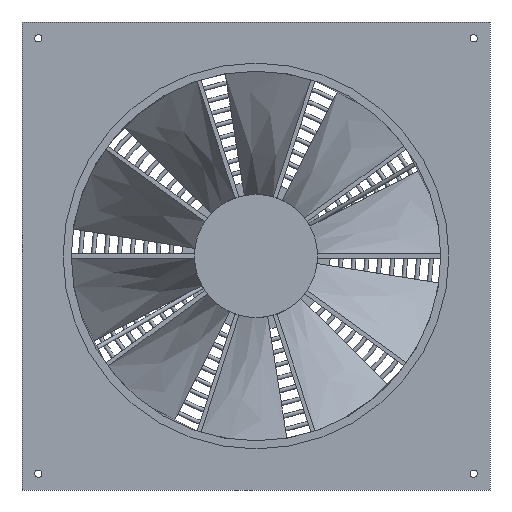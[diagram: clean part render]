
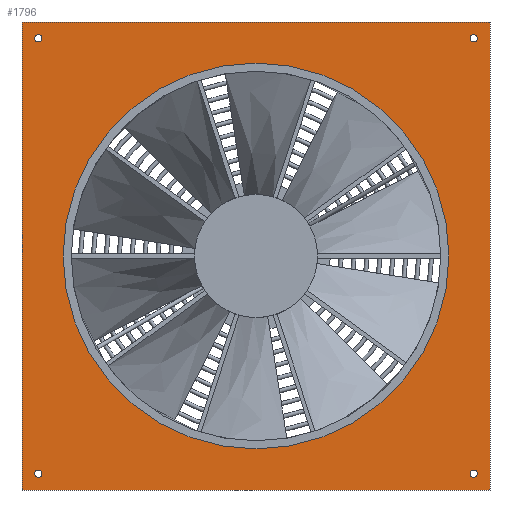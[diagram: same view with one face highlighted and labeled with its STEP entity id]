
A CAD part, front view. The second image highlights one B-rep face of the part: STEP entity #1796.
In plain terms, the highlighted planar face has unit normal (0, -1, 0).
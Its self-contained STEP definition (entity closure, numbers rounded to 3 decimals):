
#130=LINE('',#4096,#218);
#132=LINE('',#4103,#220);
#134=LINE('',#4109,#222);
#135=LINE('',#4111,#223);
#218=VECTOR('',#2268,10.);
#220=VECTOR('',#2276,10.);
#222=VECTOR('',#2282,10.);
#223=VECTOR('',#2285,10.);
#284=PLANE('',#1958);
#334=FACE_BOUND('',#658,.T.);
#335=FACE_BOUND('',#659,.T.);
#336=FACE_BOUND('',#660,.T.);
#337=FACE_BOUND('',#661,.T.);
#338=FACE_BOUND('',#662,.T.);
#408=CIRCLE('',#1947,4.5);
#409=CIRCLE('',#1949,4.5);
#410=CIRCLE('',#1951,4.5);
#411=CIRCLE('',#1953,4.5);
#413=CIRCLE('',#1956,237.);
#515=FACE_OUTER_BOUND('',#657,.T.);
#657=EDGE_LOOP('',(#1651,#1652,#1653,#1654));
#658=EDGE_LOOP('',(#1655));
#659=EDGE_LOOP('',(#1656));
#660=EDGE_LOOP('',(#1657));
#661=EDGE_LOOP('',(#1658));
#662=EDGE_LOOP('',(#1659));
#877=VERTEX_POINT('',#4093);
#878=VERTEX_POINT('',#4095);
#880=VERTEX_POINT('',#4101);
#882=VERTEX_POINT('',#4107);
#893=VERTEX_POINT('',#4235);
#894=VERTEX_POINT('',#4238);
#895=VERTEX_POINT('',#4241);
#896=VERTEX_POINT('',#4244);
#898=VERTEX_POINT('',#4249);
#1105=EDGE_CURVE('',#878,#877,#130,.T.);
#1109=EDGE_CURVE('',#877,#880,#132,.T.);
#1112=EDGE_CURVE('',#880,#882,#134,.T.);
#1113=EDGE_CURVE('',#882,#878,#135,.T.);
#1140=EDGE_CURVE('',#893,#893,#408,.T.);
#1141=EDGE_CURVE('',#894,#894,#409,.T.);
#1142=EDGE_CURVE('',#895,#895,#410,.T.);
#1143=EDGE_CURVE('',#896,#896,#411,.T.);
#1145=EDGE_CURVE('',#898,#898,#413,.T.);
#1651=ORIENTED_EDGE('',*,*,#1105,.T.);
#1652=ORIENTED_EDGE('',*,*,#1109,.T.);
#1653=ORIENTED_EDGE('',*,*,#1112,.T.);
#1654=ORIENTED_EDGE('',*,*,#1113,.T.);
#1655=ORIENTED_EDGE('',*,*,#1140,.T.);
#1656=ORIENTED_EDGE('',*,*,#1141,.T.);
#1657=ORIENTED_EDGE('',*,*,#1142,.T.);
#1658=ORIENTED_EDGE('',*,*,#1143,.T.);
#1659=ORIENTED_EDGE('',*,*,#1145,.T.);
#1796=ADVANCED_FACE('',(#515,#334,#335,#336,#337,#338),#284,.F.);
#1947=AXIS2_PLACEMENT_3D('',#4236,#2333,#2334);
#1949=AXIS2_PLACEMENT_3D('',#4239,#2337,#2338);
#1951=AXIS2_PLACEMENT_3D('',#4242,#2341,#2342);
#1953=AXIS2_PLACEMENT_3D('',#4245,#2345,#2346);
#1956=AXIS2_PLACEMENT_3D('',#4250,#2351,#2352);
#1958=AXIS2_PLACEMENT_3D('',#4252,#2355,#2356);
#2268=DIRECTION('',(1.,0.,0.));
#2276=DIRECTION('',(0.,0.,1.));
#2282=DIRECTION('',(-1.,0.,0.));
#2285=DIRECTION('',(0.,0.,-1.));
#2333=DIRECTION('center_axis',(0.,1.,0.));
#2334=DIRECTION('ref_axis',(1.,0.,0.));
#2337=DIRECTION('center_axis',(0.,1.,0.));
#2338=DIRECTION('ref_axis',(1.,0.,0.));
#2341=DIRECTION('center_axis',(0.,1.,0.));
#2342=DIRECTION('ref_axis',(1.,0.,0.));
#2345=DIRECTION('center_axis',(0.,1.,0.));
#2346=DIRECTION('ref_axis',(1.,0.,0.));
#2351=DIRECTION('center_axis',(0.,1.,0.));
#2352=DIRECTION('ref_axis',(-1.,0.,0.));
#2355=DIRECTION('center_axis',(0.,1.,0.));
#2356=DIRECTION('ref_axis',(0.,0.,1.));
#4093=CARTESIAN_POINT('',(287.5,0.,-287.5));
#4095=CARTESIAN_POINT('',(-287.5,0.,-287.5));
#4096=CARTESIAN_POINT('',(-287.5,0.,-287.5));
#4101=CARTESIAN_POINT('',(287.5,0.,287.5));
#4103=CARTESIAN_POINT('',(287.5,0.,-287.5));
#4107=CARTESIAN_POINT('',(-287.5,0.,287.5));
#4109=CARTESIAN_POINT('',(287.5,0.,287.5));
#4111=CARTESIAN_POINT('',(-287.5,0.,287.5));
#4235=CARTESIAN_POINT('',(-263.,0.,-267.5));
#4236=CARTESIAN_POINT('Origin',(-267.5,0.,-267.5));
#4238=CARTESIAN_POINT('',(272.,0.,267.5));
#4239=CARTESIAN_POINT('Origin',(267.5,0.,267.5));
#4241=CARTESIAN_POINT('',(272.,0.,-267.5));
#4242=CARTESIAN_POINT('Origin',(267.5,0.,-267.5));
#4244=CARTESIAN_POINT('',(-263.,0.,267.5));
#4245=CARTESIAN_POINT('Origin',(-267.5,0.,267.5));
#4249=CARTESIAN_POINT('',(237.,0.,0.));
#4250=CARTESIAN_POINT('Origin',(0.,0.,0.));
#4252=CARTESIAN_POINT('Origin',(0.,0.,0.));
